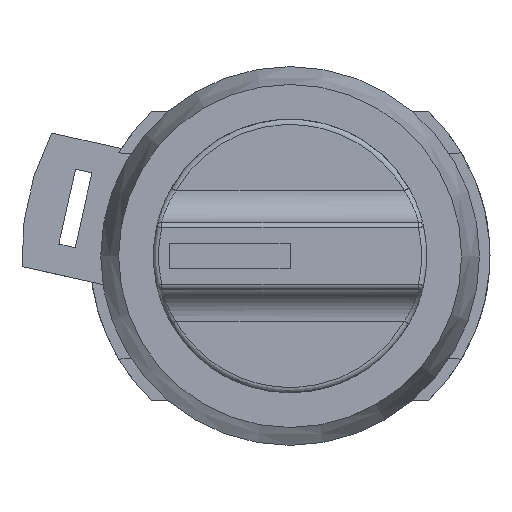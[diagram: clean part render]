
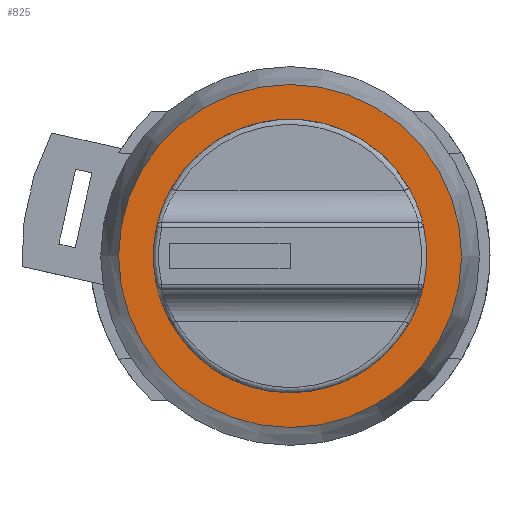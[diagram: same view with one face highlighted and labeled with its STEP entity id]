
A CAD part, left-side view. The second image highlights one B-rep face of the part: STEP entity #825.
In plain terms, the highlighted planar face has unit normal (-1, 0, 0).
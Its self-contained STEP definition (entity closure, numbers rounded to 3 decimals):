
#825 = ADVANCED_FACE ( 'NONE', ( #5582, #5574 ), #3488, .T. ) ;
#1217 = EDGE_CURVE ( 'NONE', #13521, #13521, #6237, .T. ) ;
#1241 = EDGE_CURVE ( 'NONE', #13531, #13531, #6266, .T. ) ;
#3480 = CARTESIAN_POINT ( 'NONE',  ( 0., 11.15, 0. ) ) ;
#3488 = PLANE ( 'NONE',  #6367 ) ;
#3489 = DIRECTION ( 'NONE',  ( -1., 0., 0. ) ) ;
#3490 = DIRECTION ( 'NONE',  ( 0., 0., 1. ) ) ;
#5275 = ORIENTED_EDGE ( 'NONE', *, *, #1241, .F. ) ;
#5287 = ORIENTED_EDGE ( 'NONE', *, *, #1217, .T. ) ;
#5482 = EDGE_LOOP ( 'NONE', ( #5275 ) ) ;
#5485 = EDGE_LOOP ( 'NONE', ( #5287 ) ) ;
#5574 = FACE_OUTER_BOUND ( 'NONE', #5482, .T. ) ;
#5582 = FACE_BOUND ( 'NONE', #5485, .T. ) ;
#6237 = CIRCLE ( 'NONE', #6750, 6. ) ;
#6266 = CIRCLE ( 'NONE', #6766, 16.3 ) ;
#6367 = AXIS2_PLACEMENT_3D ( 'NONE', #3480, #3489, #3490 ) ;
#6750 = AXIS2_PLACEMENT_3D ( 'NONE', #8390, #8393, #8394 ) ;
#6766 = AXIS2_PLACEMENT_3D ( 'NONE', #8450, #8460, #8461 ) ;
#8390 = CARTESIAN_POINT ( 'NONE',  ( 0., 0., 0. ) ) ;
#8393 = DIRECTION ( 'NONE',  ( 1., 0., 0. ) ) ;
#8394 = DIRECTION ( 'NONE',  ( 0., 0., -1. ) ) ;
#8450 = CARTESIAN_POINT ( 'NONE',  ( 0., 0., 0. ) ) ;
#8460 = DIRECTION ( 'NONE',  ( 1., 0., 0. ) ) ;
#8461 = DIRECTION ( 'NONE',  ( 0., 1., 0. ) ) ;
#13521 = VERTEX_POINT ( 'NONE', #13522 ) ;
#13522 = CARTESIAN_POINT ( 'NONE',  ( 0., 0., -6. ) ) ;
#13531 = VERTEX_POINT ( 'NONE', #13532 ) ;
#13532 = CARTESIAN_POINT ( 'NONE',  ( 0., 16.3, 0. ) ) ;
